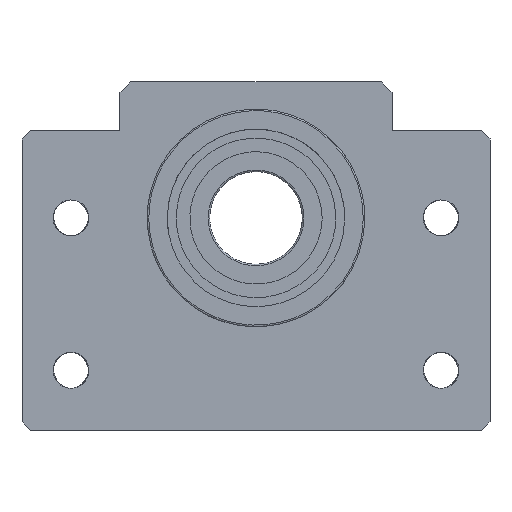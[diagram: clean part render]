
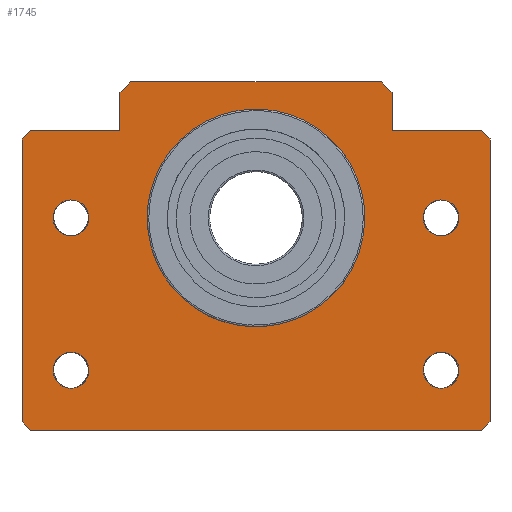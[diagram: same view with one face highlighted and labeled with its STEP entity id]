
A CAD part, front view. The second image highlights one B-rep face of the part: STEP entity #1745.
In plain terms, the highlighted free-form (B-spline) face has degree [1, 1] with [2, 2] control points.
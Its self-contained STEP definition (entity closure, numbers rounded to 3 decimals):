
#1022=CARTESIAN_POINT('',(43.,-37.5,0.));
#1023=VERTEX_POINT('',#1022);
#1024=CARTESIAN_POINT('',(41.5,-39.,0.));
#1025=VERTEX_POINT('',#1024);
#1026=CARTESIAN_POINT('',(43.,-37.5,0.));
#1027=CARTESIAN_POINT('',(41.5,-39.,0.));
#1028=B_SPLINE_CURVE_WITH_KNOTS('',1,(#1026,#1027),.POLYLINE_FORM.,.F.,.U.,(2,2),(0.,1.),.UNSPECIFIED.);
#1029=EDGE_CURVE('',#1023,#1025,#1028,.T.);
#1058=CARTESIAN_POINT('',(43.,14.5,0.));
#1059=VERTEX_POINT('',#1058);
#1060=CARTESIAN_POINT('',(43.,14.5,0.));
#1061=CARTESIAN_POINT('',(43.,-37.5,0.));
#1062=B_SPLINE_CURVE_WITH_KNOTS('',1,(#1060,#1061),.POLYLINE_FORM.,.F.,.U.,(2,2),(0.,1.),.UNSPECIFIED.);
#1063=EDGE_CURVE('',#1059,#1023,#1062,.T.);
#1086=CARTESIAN_POINT('',(-41.5,-39.,0.));
#1087=VERTEX_POINT('',#1086);
#1088=CARTESIAN_POINT('',(41.5,-39.,0.));
#1089=CARTESIAN_POINT('',(-41.5,-39.,0.));
#1090=B_SPLINE_CURVE_WITH_KNOTS('',1,(#1088,#1089),.POLYLINE_FORM.,.F.,.U.,(2,2),(0.,1.),.UNSPECIFIED.);
#1091=EDGE_CURVE('',#1025,#1087,#1090,.T.);
#1146=CARTESIAN_POINT('',(-43.,-37.5,0.));
#1147=VERTEX_POINT('',#1146);
#1148=CARTESIAN_POINT('',(-43.,14.5,0.));
#1149=VERTEX_POINT('',#1148);
#1150=CARTESIAN_POINT('',(-43.,-37.5,0.));
#1151=CARTESIAN_POINT('',(-43.,14.5,0.));
#1152=B_SPLINE_CURVE_WITH_KNOTS('',1,(#1150,#1151),.POLYLINE_FORM.,.F.,.U.,(2,2),(0.,1.),.UNSPECIFIED.);
#1153=EDGE_CURVE('',#1147,#1149,#1152,.T.);
#1182=CARTESIAN_POINT('',(-41.5,-39.,0.));
#1183=CARTESIAN_POINT('',(-43.,-37.5,0.));
#1184=B_SPLINE_CURVE_WITH_KNOTS('',1,(#1182,#1183),.POLYLINE_FORM.,.F.,.U.,(2,2),(0.,1.),.UNSPECIFIED.);
#1185=EDGE_CURVE('',#1087,#1147,#1184,.T.);
#1202=CARTESIAN_POINT('',(41.5,16.,0.));
#1203=VERTEX_POINT('',#1202);
#1204=CARTESIAN_POINT('',(41.5,16.,0.));
#1205=CARTESIAN_POINT('',(43.,14.5,0.));
#1206=B_SPLINE_CURVE_WITH_KNOTS('',1,(#1204,#1205),.POLYLINE_FORM.,.F.,.U.,(2,2),(0.,1.),.UNSPECIFIED.);
#1207=EDGE_CURVE('',#1203,#1059,#1206,.T.);
#1230=CARTESIAN_POINT('',(25.,16.,0.));
#1231=VERTEX_POINT('',#1230);
#1232=CARTESIAN_POINT('',(25.,16.,0.));
#1233=CARTESIAN_POINT('',(41.5,16.,0.));
#1234=B_SPLINE_CURVE_WITH_KNOTS('',1,(#1232,#1233),.POLYLINE_FORM.,.F.,.U.,(2,2),(0.,1.),.UNSPECIFIED.);
#1235=EDGE_CURVE('',#1231,#1203,#1234,.T.);
#1274=CARTESIAN_POINT('',(25.,23.,0.));
#1275=VERTEX_POINT('',#1274);
#1276=CARTESIAN_POINT('',(25.,23.,0.));
#1277=CARTESIAN_POINT('',(25.,16.,0.));
#1278=B_SPLINE_CURVE_WITH_KNOTS('',1,(#1276,#1277),.POLYLINE_FORM.,.F.,.U.,(2,2),(0.,1.),.UNSPECIFIED.);
#1279=EDGE_CURVE('',#1275,#1231,#1278,.T.);
#1302=CARTESIAN_POINT('',(23.,25.,0.));
#1303=VERTEX_POINT('',#1302);
#1304=CARTESIAN_POINT('',(23.,25.,0.));
#1305=CARTESIAN_POINT('',(25.,23.,0.));
#1306=B_SPLINE_CURVE_WITH_KNOTS('',1,(#1304,#1305),.POLYLINE_FORM.,.F.,.U.,(2,2),(0.,1.),.UNSPECIFIED.);
#1307=EDGE_CURVE('',#1303,#1275,#1306,.T.);
#1330=CARTESIAN_POINT('',(-23.,25.,0.));
#1331=VERTEX_POINT('',#1330);
#1332=CARTESIAN_POINT('',(-23.,25.,0.));
#1333=CARTESIAN_POINT('',(23.,25.,0.));
#1334=B_SPLINE_CURVE_WITH_KNOTS('',1,(#1332,#1333),.POLYLINE_FORM.,.F.,.U.,(2,2),(0.,1.),.UNSPECIFIED.);
#1335=EDGE_CURVE('',#1331,#1303,#1334,.T.);
#1358=CARTESIAN_POINT('',(-25.,23.,0.));
#1359=VERTEX_POINT('',#1358);
#1360=CARTESIAN_POINT('',(-25.,23.,0.));
#1361=CARTESIAN_POINT('',(-23.,25.,0.));
#1362=B_SPLINE_CURVE_WITH_KNOTS('',1,(#1360,#1361),.POLYLINE_FORM.,.F.,.U.,(2,2),(0.,1.),.UNSPECIFIED.);
#1363=EDGE_CURVE('',#1359,#1331,#1362,.T.);
#1386=CARTESIAN_POINT('',(-25.,16.,0.));
#1387=VERTEX_POINT('',#1386);
#1388=CARTESIAN_POINT('',(-25.,16.,0.));
#1389=CARTESIAN_POINT('',(-25.,23.,0.));
#1390=B_SPLINE_CURVE_WITH_KNOTS('',1,(#1388,#1389),.POLYLINE_FORM.,.F.,.U.,(2,2),(0.,1.),.UNSPECIFIED.);
#1391=EDGE_CURVE('',#1387,#1359,#1390,.T.);
#1414=CARTESIAN_POINT('',(-41.5,16.,0.));
#1415=VERTEX_POINT('',#1414);
#1416=CARTESIAN_POINT('',(-41.5,16.,0.));
#1417=CARTESIAN_POINT('',(-25.,16.,0.));
#1418=B_SPLINE_CURVE_WITH_KNOTS('',1,(#1416,#1417),.POLYLINE_FORM.,.F.,.U.,(2,2),(0.,1.),.UNSPECIFIED.);
#1419=EDGE_CURVE('',#1415,#1387,#1418,.T.);
#1458=CARTESIAN_POINT('',(-43.,14.5,0.));
#1459=CARTESIAN_POINT('',(-41.5,16.,0.));
#1460=B_SPLINE_CURVE_WITH_KNOTS('',1,(#1458,#1459),.POLYLINE_FORM.,.F.,.U.,(2,2),(0.,1.),.UNSPECIFIED.);
#1461=EDGE_CURVE('',#1149,#1415,#1460,.T.);
#1642=CARTESIAN_POINT('',(20.,0.,0.));
#1643=VERTEX_POINT('',#1642);
#1649=CARTESIAN_POINT('',(20.,0.,0.));
#1650=CARTESIAN_POINT('',(20.,-20.,0.));
#1651=CARTESIAN_POINT('',(0.,-20.,0.));
#1652=CARTESIAN_POINT('',(-20.,-20.,0.));
#1653=CARTESIAN_POINT('',(-20.,0.,0.));
#1654=CARTESIAN_POINT('',(-20.,20.,0.));
#1655=CARTESIAN_POINT('',(0.,20.,0.));
#1656=CARTESIAN_POINT('',(20.,20.,0.));
#1657=CARTESIAN_POINT('',(20.,0.,0.));
#1658=(BOUNDED_CURVE()B_SPLINE_CURVE(2,(#1649,#1650,#1651,#1652,#1653,#1654,#1655,#1656,#1657),.UNSPECIFIED.,.T.,.U.)B_SPLINE_CURVE_WITH_KNOTS((3,2,2,2,3),(0.,0.25,0.5,0.75,1.),.UNSPECIFIED.)CURVE()GEOMETRIC_REPRESENTATION_ITEM()RATIONAL_B_SPLINE_CURVE((1.,0.707,1.,0.707,1.,0.707,1.,0.707,1.))REPRESENTATION_ITEM(''));
#1659=EDGE_CURVE('',#1643,#1643,#1658,.T.);
#1665=CARTESIAN_POINT('',(-114.201,-114.201,0.));
#1666=CARTESIAN_POINT('',(-114.201,114.201,0.));
#1667=CARTESIAN_POINT('',(114.201,-114.201,0.));
#1668=CARTESIAN_POINT('',(114.201,114.201,0.));
#1669=B_SPLINE_SURFACE_WITH_KNOTS('',1,1,((#1665,#1666),(#1667,#1668)),.PLANE_SURF.,.F.,.F.,.U.,(2,2),(2,2),(0.,1.),(0.,1.),.UNSPECIFIED.);
#1670=ORIENTED_EDGE('',*,*,#1153,.F.);
#1671=ORIENTED_EDGE('',*,*,#1185,.F.);
#1672=ORIENTED_EDGE('',*,*,#1091,.F.);
#1673=ORIENTED_EDGE('',*,*,#1029,.F.);
#1674=ORIENTED_EDGE('',*,*,#1063,.F.);
#1675=ORIENTED_EDGE('',*,*,#1207,.F.);
#1676=ORIENTED_EDGE('',*,*,#1235,.F.);
#1677=ORIENTED_EDGE('',*,*,#1279,.F.);
#1678=ORIENTED_EDGE('',*,*,#1307,.F.);
#1679=ORIENTED_EDGE('',*,*,#1335,.F.);
#1680=ORIENTED_EDGE('',*,*,#1363,.F.);
#1681=ORIENTED_EDGE('',*,*,#1391,.F.);
#1682=ORIENTED_EDGE('',*,*,#1419,.F.);
#1683=ORIENTED_EDGE('',*,*,#1461,.F.);
#1684=EDGE_LOOP('',(#1670,#1671,#1672,#1673,#1674,#1675,#1676,#1677,#1678,#1679,#1680,#1681,#1682,#1683));
#1685=FACE_OUTER_BOUND('',#1684,.T.);
#1686=ORIENTED_EDGE('',*,*,#1659,.T.);
#1687=EDGE_LOOP('',(#1686));
#1688=FACE_BOUND('',#1687,.T.);
#1689=CARTESIAN_POINT('',(-30.7,-28.,0.));
#1690=VERTEX_POINT('',#1689);
#1691=CARTESIAN_POINT('',(-30.7,-28.,0.));
#1692=CARTESIAN_POINT('',(-30.7,-22.284,0.));
#1693=CARTESIAN_POINT('',(-35.65,-25.142,0.));
#1694=CARTESIAN_POINT('',(-40.6,-28.,0.));
#1695=CARTESIAN_POINT('',(-35.65,-30.858,0.));
#1696=CARTESIAN_POINT('',(-30.7,-33.716,0.));
#1697=CARTESIAN_POINT('',(-30.7,-28.,0.));
#1698=(BOUNDED_CURVE()B_SPLINE_CURVE(2,(#1691,#1692,#1693,#1694,#1695,#1696,#1697),.CIRCULAR_ARC.,.T.,.U.)B_SPLINE_CURVE_WITH_KNOTS((3,2,2,3),(0.,0.333,0.667,1.),.UNSPECIFIED.)CURVE()GEOMETRIC_REPRESENTATION_ITEM()RATIONAL_B_SPLINE_CURVE((1.,0.5,1.,0.5,1.,0.5,1.))REPRESENTATION_ITEM(''));
#1699=EDGE_CURVE('',#1690,#1690,#1698,.T.);
#1700=ORIENTED_EDGE('',*,*,#1699,.F.);
#1701=EDGE_LOOP('',(#1700));
#1702=FACE_BOUND('',#1701,.T.);
#1703=CARTESIAN_POINT('',(37.3,-28.,0.));
#1704=VERTEX_POINT('',#1703);
#1705=CARTESIAN_POINT('',(37.3,-28.,0.));
#1706=CARTESIAN_POINT('',(37.3,-22.284,0.));
#1707=CARTESIAN_POINT('',(32.35,-25.142,0.));
#1708=CARTESIAN_POINT('',(27.4,-28.,0.));
#1709=CARTESIAN_POINT('',(32.35,-30.858,0.));
#1710=CARTESIAN_POINT('',(37.3,-33.716,0.));
#1711=CARTESIAN_POINT('',(37.3,-28.,0.));
#1712=(BOUNDED_CURVE()B_SPLINE_CURVE(2,(#1705,#1706,#1707,#1708,#1709,#1710,#1711),.CIRCULAR_ARC.,.T.,.U.)B_SPLINE_CURVE_WITH_KNOTS((3,2,2,3),(0.,0.333,0.667,1.),.UNSPECIFIED.)CURVE()GEOMETRIC_REPRESENTATION_ITEM()RATIONAL_B_SPLINE_CURVE((1.,0.5,1.,0.5,1.,0.5,1.))REPRESENTATION_ITEM(''));
#1713=EDGE_CURVE('',#1704,#1704,#1712,.T.);
#1714=ORIENTED_EDGE('',*,*,#1713,.F.);
#1715=EDGE_LOOP('',(#1714));
#1716=FACE_BOUND('',#1715,.T.);
#1717=CARTESIAN_POINT('',(-30.7,0.,0.));
#1718=VERTEX_POINT('',#1717);
#1719=CARTESIAN_POINT('',(-30.7,0.,0.));
#1720=CARTESIAN_POINT('',(-30.7,5.716,0.));
#1721=CARTESIAN_POINT('',(-35.65,2.858,0.));
#1722=CARTESIAN_POINT('',(-40.6,0.,0.));
#1723=CARTESIAN_POINT('',(-35.65,-2.858,0.));
#1724=CARTESIAN_POINT('',(-30.7,-5.716,0.));
#1725=CARTESIAN_POINT('',(-30.7,0.,0.));
#1726=(BOUNDED_CURVE()B_SPLINE_CURVE(2,(#1719,#1720,#1721,#1722,#1723,#1724,#1725),.CIRCULAR_ARC.,.T.,.U.)B_SPLINE_CURVE_WITH_KNOTS((3,2,2,3),(0.,0.333,0.667,1.),.UNSPECIFIED.)CURVE()GEOMETRIC_REPRESENTATION_ITEM()RATIONAL_B_SPLINE_CURVE((1.,0.5,1.,0.5,1.,0.5,1.))REPRESENTATION_ITEM(''));
#1727=EDGE_CURVE('',#1718,#1718,#1726,.T.);
#1728=ORIENTED_EDGE('',*,*,#1727,.F.);
#1729=EDGE_LOOP('',(#1728));
#1730=FACE_BOUND('',#1729,.T.);
#1731=CARTESIAN_POINT('',(37.3,0.,0.));
#1732=VERTEX_POINT('',#1731);
#1733=CARTESIAN_POINT('',(37.3,0.,0.));
#1734=CARTESIAN_POINT('',(37.3,5.716,0.));
#1735=CARTESIAN_POINT('',(32.35,2.858,0.));
#1736=CARTESIAN_POINT('',(27.4,0.,0.));
#1737=CARTESIAN_POINT('',(32.35,-2.858,0.));
#1738=CARTESIAN_POINT('',(37.3,-5.716,0.));
#1739=CARTESIAN_POINT('',(37.3,0.,0.));
#1740=(BOUNDED_CURVE()B_SPLINE_CURVE(2,(#1733,#1734,#1735,#1736,#1737,#1738,#1739),.CIRCULAR_ARC.,.T.,.U.)B_SPLINE_CURVE_WITH_KNOTS((3,2,2,3),(0.,0.333,0.667,1.),.UNSPECIFIED.)CURVE()GEOMETRIC_REPRESENTATION_ITEM()RATIONAL_B_SPLINE_CURVE((1.,0.5,1.,0.5,1.,0.5,1.))REPRESENTATION_ITEM(''));
#1741=EDGE_CURVE('',#1732,#1732,#1740,.T.);
#1742=ORIENTED_EDGE('',*,*,#1741,.F.);
#1743=EDGE_LOOP('',(#1742));
#1744=FACE_BOUND('',#1743,.T.);
#1745=ADVANCED_FACE('',(#1685,#1688,#1702,#1716,#1730,#1744),#1669,.T.);
